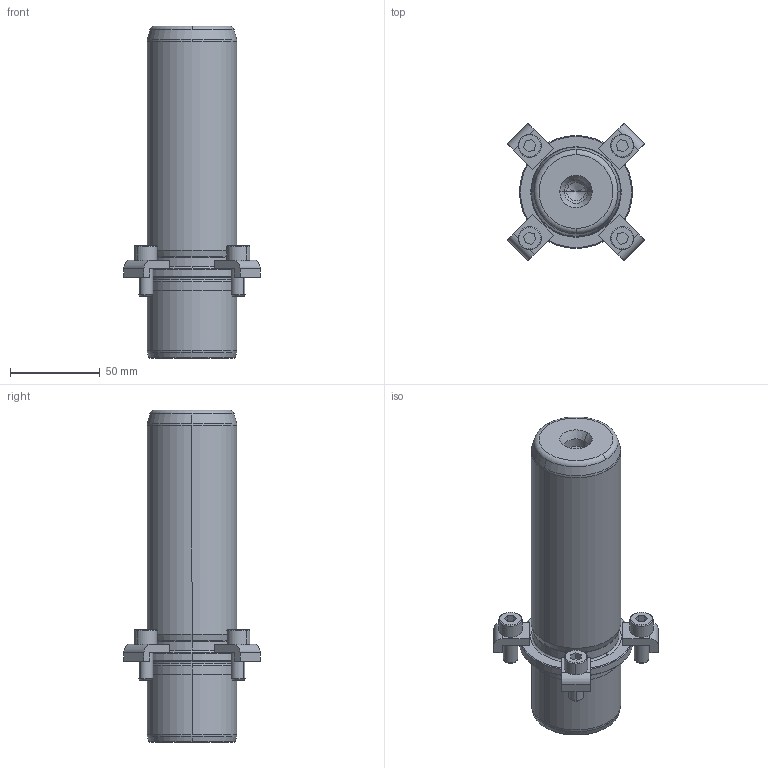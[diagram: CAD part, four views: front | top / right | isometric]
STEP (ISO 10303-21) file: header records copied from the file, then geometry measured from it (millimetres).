
FILE_DESCRIPTION((''),'2;1');
FILE_NAME('P21_050_140.stp','2008-12-23T13:42:40',(''),(''),'Mechanical Desktop 2009','Mechanical Desktop 2009',', , ');
FILE_SCHEMA(('CONFIG_CONTROL_DESIGN'));
Length unit declared in the file: millimetre
Products named in the file (2): Product; blmdl1
Assembly tree (1 placements, depth 2):
  Product
    blmdl1
Bounding box: 76.01 x 76.01 x 185 mm (x, y, z)
Volume: 371416.1 mm3; surface area: 46428.5 mm2
Topology: 9 solids, 9 shells, 195 faces, 477 edges, 309 vertices
Faces by surface type: plane 77, cylinder 52, cone 34, torus 16, bspline 16
Entity records: 6547 total; most frequent: CARTESIAN_POINT 1683, DIRECTION 1078, ORIENTED_EDGE 946, EDGE_CURVE 473, AXIS2_PLACEMENT_3D 424, VERTEX_POINT 309, CIRCLE 243, VECTOR 230
